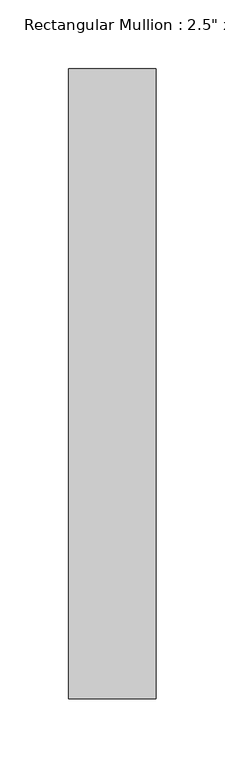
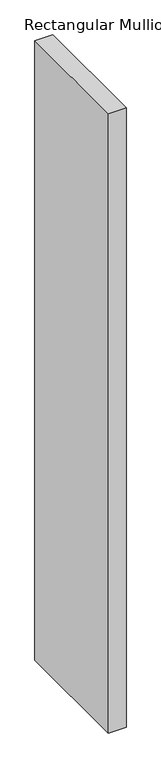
"""IFC4 building model written with IfcOpenShell, lengths in millimetres: member geometry."""

import ifcopenshell
import ifcopenshell.guid

model = None  # the IFC model being written
_history = None  # IfcOwnerHistory: only IFC2X3 demands one
_inside = {}  # id of a spatial element -> (the spatial element, [elements in it])
_under = {}  # id of a project, library or spatial element -> (it, [spatial elements below it])
_declared = {}  # id of a project -> (the project, [libraries it declares])
_typed = {}  # id of a type object -> (the type object, [elements of that type])
_made_of = {}  # id of a material, layer set ... -> (it, [elements and type objects made of it])


def new_model(schema):
    """Start an empty IFC model of exactly this schema.

    Asked for "IFC4X3", IfcOpenShell would pick the latest addendum, in which some entities
    have other attributes; the version numbers below select the first issue.
    IFC2X3 requires an IfcOwnerHistory on every rooted entity: one is made here for all.
    """
    global model, _history
    if schema == "IFC4X3":
        model = ifcopenshell.file(schema_version=(4, 3, 0, 0))
    else:
        model = ifcopenshell.file(schema=schema)
    _inside.clear()
    _under.clear()
    _declared.clear()
    _typed.clear()
    _made_of.clear()
    _history = None
    if model.schema == "IFC2X3":
        org = make("IfcOrganization", Name="unknown")
        user = make(
            "IfcPersonAndOrganization",
            ThePerson=make("IfcPerson", FamilyName="unknown"),
            TheOrganization=org,
        )
        app = make(
            "IfcApplication",
            ApplicationDeveloper=org,
            Version="unknown",
            ApplicationFullName="unknown",
            ApplicationIdentifier="unknown",
        )
        _history = make(
            "IfcOwnerHistory",
            OwningUser=user,
            OwningApplication=app,
            ChangeAction="ADDED",
            CreationDate=0,
        )
    return model


def make(cls, **values):
    """One entity of the class cls with the attributes given. An attribute that is None is left unset."""
    return model.create_entity(
        cls, **{name: value for name, value in values.items() if value is not None}
    )


def rooted(cls, **values):
    """An entity with a GlobalId (a new one), such as an element, a storey or a relation."""
    return make(cls, GlobalId=ifcopenshell.guid.new(), OwnerHistory=_history, **values)


def si_unit(unit_type, name, prefix=None):
    """IfcSIUnit, for example si_unit("LENGTHUNIT", "METRE", prefix="MILLI")."""
    return make("IfcSIUnit", UnitType=unit_type, Prefix=prefix, Name=name)


def assignment(units):
    """IfcUnitAssignment: the units of a project."""
    return None if units is None else make("IfcUnitAssignment", Units=units)


def point(xyz):
    """IfcCartesianPoint."""
    return None if xyz is None else make("IfcCartesianPoint", Coordinates=xyz)


def direction(xyz):
    """IfcDirection."""
    return None if xyz is None else make("IfcDirection", DirectionRatios=xyz)


def frame(location, z_axis=None, x_axis=None):
    """IfcAxis2Placement3D, a coordinate frame: its origin and axes. An axis left out is left unset."""
    return make(
        "IfcAxis2Placement3D",
        Location=point(location),
        Axis=direction(z_axis),
        RefDirection=direction(x_axis),
    )


def origin():
    """The frame at (0, 0, 0) with its axes left unset."""
    return frame((0.0, 0.0, 0.0))


def place(relative_to, where):
    """IfcLocalPlacement: puts the frame where relative to a parent placement (None: the world)."""
    return make(
        "IfcLocalPlacement", PlacementRelTo=relative_to, RelativePlacement=where
    )


def context(
    kind, dimensions, precision=None, world=None, true_north=None, identifier=None
):
    """IfcGeometricRepresentationContext, for example the 3D "Model" context."""
    return make(
        "IfcGeometricRepresentationContext",
        ContextIdentifier=identifier,
        ContextType=kind,
        CoordinateSpaceDimension=dimensions,
        Precision=precision,
        WorldCoordinateSystem=world,
        TrueNorth=true_north,
    )


def project(units=None, contexts=None):
    """IfcProject with its units and contexts."""
    return rooted(
        "IfcProject",
        Name="project",
        RepresentationContexts=contexts,
        UnitsInContext=assignment(units),
    )


def spatial(cls, under=None, at=None, **own):
    """A site, building, storey or space (cls), placed at a placement, below another one or the project."""
    s = rooted(cls, ObjectPlacement=at, **own)
    if under is not None:
        _under.setdefault(under.id(), (under, []))[1].append(s)
    return s


def polyline(points):
    """IfcPolyline through the points."""
    return make("IfcPolyline", Points=[point(p) for p in points])


def outline(outer, holes=None, kind="AREA"):
    """IfcArbitraryClosedProfileDef: a profile drawn as a closed curve; with holes, ...WithVoids."""
    if holes is None:
        return make("IfcArbitraryClosedProfileDef", ProfileType=kind, OuterCurve=outer)
    return make(
        "IfcArbitraryProfileDefWithVoids",
        ProfileType=kind,
        OuterCurve=outer,
        InnerCurves=holes,
    )


def extrude(swept, where, along, depth):
    """IfcExtrudedAreaSolid: the profile swept, set in the frame where, extruded along a direction by depth."""
    return make(
        "IfcExtrudedAreaSolid",
        SweptArea=swept,
        Position=where,
        ExtrudedDirection=direction(along),
        Depth=depth,
    )


def shape(context_of_items, identifier, shape_type, items):
    """IfcShapeRepresentation: the items that make up one representation, for example the "Body"."""
    return make(
        "IfcShapeRepresentation",
        ContextOfItems=context_of_items,
        RepresentationIdentifier=identifier,
        RepresentationType=shape_type,
        Items=items,
    )


def source(mapping_origin, context_of_items, identifier, shape_type, items):
    """IfcRepresentationMap: a shape defined once, which mapped items show again and again."""
    return make(
        "IfcRepresentationMap",
        MappingOrigin=mapping_origin,
        MappedRepresentation=shape(context_of_items, identifier, shape_type, items),
    )


def transform(
    local_origin,
    x_axis=None,
    y_axis=None,
    z_axis=None,
    scale=None,
    scale2=None,
    scale3=None,
    uniform=True,
):
    """IfcCartesianTransformationOperator3D, or its non-uniform kind. x_axis, y_axis, z_axis: its Axis1, 2, 3."""
    if uniform:
        return make(
            "IfcCartesianTransformationOperator3D",
            Axis1=direction(x_axis),
            Axis2=direction(y_axis),
            LocalOrigin=point(local_origin),
            Scale=scale,
            Axis3=direction(z_axis),
        )
    return make(
        "IfcCartesianTransformationOperator3DnonUniform",
        Axis1=direction(x_axis),
        Axis2=direction(y_axis),
        LocalOrigin=point(local_origin),
        Scale=scale,
        Axis3=direction(z_axis),
        Scale2=scale2,
        Scale3=scale3,
    )


def mapped(mapping_source, mapping_target):
    """IfcMappedItem: shows the shape of a source again, moved by a transform."""
    return make(
        "IfcMappedItem", MappingSource=mapping_source, MappingTarget=mapping_target
    )


def made_of(thing, what):
    """Note that an element or type object is made of a material, layer set ...; save() writes the relation."""
    if what is not None:
        _made_of.setdefault(what.id(), (what, []))[1].append(thing)
    return thing


def element(
    cls,
    number,
    at=None,
    inside=None,
    cuts=None,
    type_object=None,
    material=None,
    context=None,
    identifier="Body",
    shape_type=None,
    held_by="IfcProductDefinitionShape",
    body=None,
    shapes=None,
    **own,
):
    """One element of the class cls, such as IfcWall. Its Tag is "e" and its number.

    at: its placement. inside: the storey or other place that contains it. cuts: it is an
    opening in that element (IfcRelVoidsElement). A single representation is given by context,
    identifier, shape_type and body (its items); several are given by shapes. held_by: the class
    of the entity that holds the representations. save() writes the other relations.
    """
    e = rooted(cls, Tag="e%d" % number, ObjectPlacement=at, **own)
    if body is not None:
        shapes = [shape(context, identifier, shape_type, body)]
    if shapes is not None:
        e.Representation = make(held_by, Representations=shapes)
    if inside is not None:
        _inside.setdefault(inside.id(), (inside, []))[1].append(e)
    if cuts is not None:
        rooted(
            "IfcRelVoidsElement", RelatingBuildingElement=cuts, RelatedOpeningElement=e
        )
    if type_object is not None:
        _typed.setdefault(type_object.id(), (type_object, []))[1].append(e)
    return made_of(e, material)


def aggregate(whole, parts):
    """IfcRelAggregates: a whole, such as a stair, and the parts it consists of."""
    return rooted("IfcRelAggregates", RelatingObject=whole, RelatedObjects=parts)


def save(model, path):
    """Write the relations noted so far, then the file.

    IfcRelAggregates (storeys below a building ...), IfcRelContainedInSpatialStructure (elements
    in a storey), IfcRelDefinesByType, IfcRelAssociatesMaterial and IfcRelDeclares: one each for
    every whole, place, type object, material and project.
    """
    for whole, parts in _under.values():
        aggregate(whole, parts)
    for where, things in _inside.values():
        rooted(
            "IfcRelContainedInSpatialStructure",
            RelatedElements=things,
            RelatingStructure=where,
        )
    for kind, things in _typed.values():
        rooted("IfcRelDefinesByType", RelatedObjects=things, RelatingType=kind)
    for what, things in _made_of.values():
        rooted("IfcRelAssociatesMaterial", RelatedObjects=things, RelatingMaterial=what)
    for by, libraries in _declared.values():
        rooted("IfcRelDeclares", RelatingContext=by, RelatedDefinitions=libraries)
    model.write(path)


def member_07e69ef0(model_context):
    return source(origin(), model_context, "Body", "SweptSolid", [
        extrude(outline(polyline([(31.75, 25.4), (31.75, -431.8), (-31.75, -431.8), (-31.75, 25.4), (31.75, 25.4)])), frame((0.0, 0.0, -2353.7521503), z_axis=(0.0, 0.0, 1.0), x_axis=(1.0, 0.0, 0.0)), (0.0, 0.0, 1.0), 2353.7521503),
    ])


if __name__ == "__main__":
    model = new_model("IFC4")
    model_context = context("Model", 3, world=origin())
    ifc_project = project(units=[si_unit("LENGTHUNIT", "METRE", prefix="MILLI")], contexts=[model_context])
    site = spatial("IfcSite", under=ifc_project)
    building = spatial("IfcBuilding", under=site)
    placement = place(None, origin())
    member_shape = member_07e69ef0(model_context)
    element("IfcMember", 1, ObjectType="Rectangular Mullion : 2.5\" x 18\" rectangular", at=placement, inside=building, context=model_context, shape_type="MappedRepresentation", body=[
        mapped(member_shape, transform((0.0, 0.0, 0.0), x_axis=(1.0, 0.0, 0.0), y_axis=(0.0, 1.0, 0.0), z_axis=(0.0, 0.0, 1.0))),
    ])
    save(model, "model.ifc")
